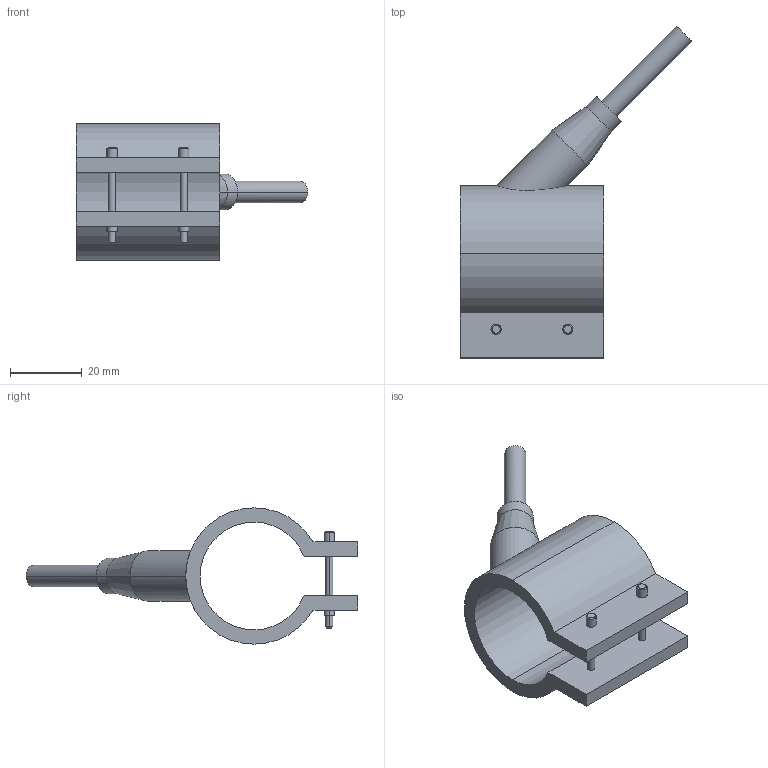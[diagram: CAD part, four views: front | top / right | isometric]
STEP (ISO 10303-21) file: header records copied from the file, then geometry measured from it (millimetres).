
FILE_DESCRIPTION(('CATIA V5 STEP Exchange'),'2;1');
FILE_NAME('C:\Users\Utente\Desktop\IO LAVORO\3D X SITO CF\X SITO\PLASTICA\RF1\29030040.stp','2021-03-27T09:06:05+00:00',('none'),('none'),'CATIA Version 5 Release 20 GA (IN-10)','CATIA V5 STEP AP203','none');
FILE_SCHEMA(('CONFIG_CONTROL_DESIGN'));
Length unit declared in the file: millimetre
Products named in the file (1): 29030040
Bounding box: 64.55 x 92.55 x 38 mm (x, y, z)
Volume: 23981.7 mm3; surface area: 12697.8 mm2
Topology: 1 solids, 1 shells, 54 faces, 122 edges, 78 vertices
Faces by surface type: cylinder 28, plane 16, cone 10
Entity records: 1731 total; most frequent: CARTESIAN_POINT 500, ORIENTED_EDGE 244, DIRECTION 215, EDGE_CURVE 122, AXIS2_PLACEMENT_3D 108, VERTEX_POINT 78, EDGE_LOOP 66, VECTOR 56
